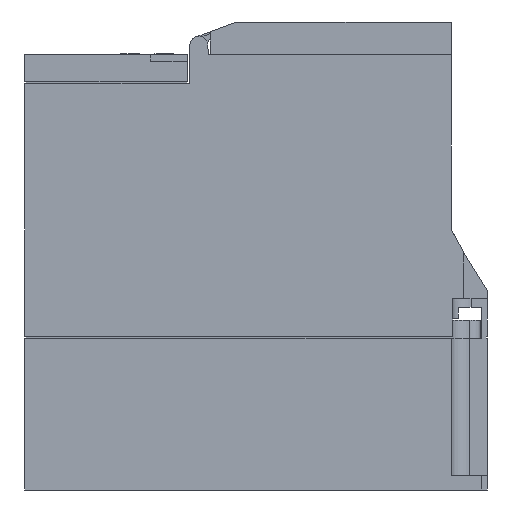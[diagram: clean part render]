
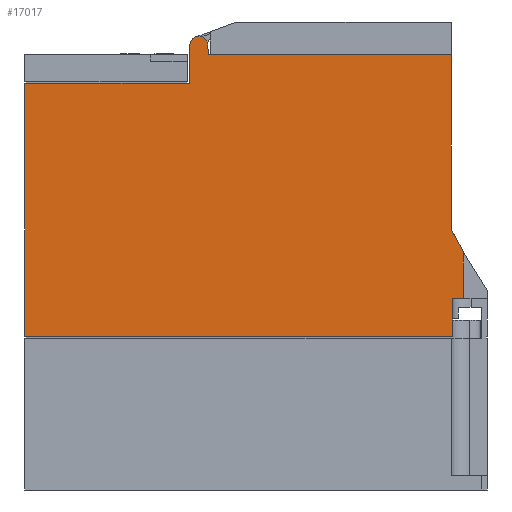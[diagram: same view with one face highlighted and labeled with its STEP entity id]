
A CAD part, left-side view. The second image highlights one B-rep face of the part: STEP entity #17017.
In plain terms, the highlighted planar face has unit normal (-1, 0, 0).
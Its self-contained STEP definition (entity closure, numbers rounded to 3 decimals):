
#2213=DIRECTION('',(0.,-1.,0.));
#2214=VECTOR('',#2213,118.5);
#2215=CARTESIAN_POINT('',(-34.,128.,0.5));
#2216=LINE('',#2215,#2214);
#3682=DIRECTION('',(0.,0.,1.));
#3683=VECTOR('',#3682,70.);
#3684=CARTESIAN_POINT('',(-34.,128.,0.5));
#3685=LINE('',#3684,#3683);
#3686=DIRECTION('',(0.,-0.017,1.));
#3687=VECTOR('',#3686,10.545);
#3688=CARTESIAN_POINT('',(-34.,82.484,70.5));
#3689=LINE('',#3688,#3687);
#3690=CARTESIAN_POINT('',(-34.,79.8,81.));
#3691=DIRECTION('',(1.,0.,0.));
#3692=DIRECTION('',(0.,1.,0.017));
#3693=AXIS2_PLACEMENT_3D('',#3690,#3691,#3692);
#3695=DIRECTION('',(0.,-0.017,-1.));
#3696=VECTOR('',#3695,2.544);
#3697=CARTESIAN_POINT('',(-34.,77.3,81.044));
#3698=LINE('',#3697,#3696);
#3699=DIRECTION('',(0.,0.,-1.));
#3700=VECTOR('',#3699,48.4);
#3701=CARTESIAN_POINT('',(-34.,10.,78.5));
#3702=LINE('',#3701,#3700);
#3703=DIRECTION('',(0.,-0.48,-0.877));
#3704=VECTOR('',#3703,7.078);
#3705=CARTESIAN_POINT('',(-34.,10.,30.1));
#3706=LINE('',#3705,#3704);
#3707=DIRECTION('',(0.,0.,1.));
#3708=VECTOR('',#3707,10.5);
#3709=CARTESIAN_POINT('',(-34.,9.5,0.5));
#3710=LINE('',#3709,#3708);
#3743=DIRECTION('',(0.,-1.,0.));
#3744=VECTOR('',#3743,45.516);
#3745=CARTESIAN_POINT('',(-34.,128.,70.5));
#3746=LINE('',#3745,#3744);
#7063=DIRECTION('',(0.,-1.,0.));
#7064=VECTOR('',#7063,67.256);
#7065=CARTESIAN_POINT('',(-34.,77.256,78.5));
#7066=LINE('',#7065,#7064);
#7199=DIRECTION('',(0.,0.,-1.));
#7200=VECTOR('',#7199,12.892);
#7201=CARTESIAN_POINT('',(-34.,6.6,23.892));
#7202=LINE('',#7201,#7200);
#7239=DIRECTION('',(0.,-1.,0.));
#7240=VECTOR('',#7239,2.9);
#7241=CARTESIAN_POINT('',(-34.,9.5,11.));
#7242=LINE('',#7241,#7240);
#8424=CARTESIAN_POINT('',(-34.,128.,70.5));
#8425=VERTEX_POINT('',#8424);
#8428=CARTESIAN_POINT('',(-34.,10.,78.5));
#8430=VERTEX_POINT('',#8428);
#8436=CARTESIAN_POINT('',(-34.,82.3,81.044));
#8437=CARTESIAN_POINT('',(-34.,77.3,81.044));
#8438=VERTEX_POINT('',#8436);
#8439=VERTEX_POINT('',#8437);
#8444=CARTESIAN_POINT('',(-34.,77.256,78.5));
#8445=VERTEX_POINT('',#8444);
#8653=CARTESIAN_POINT('',(-34.,128.,0.5));
#8655=VERTEX_POINT('',#8653);
#8724=CARTESIAN_POINT('',(-34.,82.484,70.5));
#8725=VERTEX_POINT('',#8724);
#8858=CARTESIAN_POINT('',(-34.,6.6,11.));
#8860=VERTEX_POINT('',#8858);
#8866=CARTESIAN_POINT('',(-34.,9.5,11.));
#8867=VERTEX_POINT('',#8866);
#8870=CARTESIAN_POINT('',(-34.,10.,30.1));
#8871=CARTESIAN_POINT('',(-34.,6.6,23.892));
#8872=VERTEX_POINT('',#8870);
#8873=VERTEX_POINT('',#8871);
#8922=CARTESIAN_POINT('',(-34.,9.5,0.5));
#8923=VERTEX_POINT('',#8922);
#16989=CARTESIAN_POINT('',(-34.,128.,0.));
#16990=DIRECTION('',(-1.,0.,0.));
#16991=DIRECTION('',(0.,-1.,0.));
#16992=AXIS2_PLACEMENT_3D('',#16989,#16990,#16991);
#16993=PLANE('',#16992);
#16994=ORIENTED_EDGE('',*,*,#14649,.F.);
#16996=ORIENTED_EDGE('',*,*,#16995,.T.);
#16998=ORIENTED_EDGE('',*,*,#16997,.T.);
#17000=ORIENTED_EDGE('',*,*,#16999,.T.);
#17002=ORIENTED_EDGE('',*,*,#17001,.T.);
#17004=ORIENTED_EDGE('',*,*,#17003,.T.);
#17006=ORIENTED_EDGE('',*,*,#17005,.T.);
#17008=ORIENTED_EDGE('',*,*,#17007,.T.);
#17009=ORIENTED_EDGE('',*,*,#14765,.T.);
#17011=ORIENTED_EDGE('',*,*,#17010,.T.);
#17013=ORIENTED_EDGE('',*,*,#17012,.F.);
#17014=ORIENTED_EDGE('',*,*,#16969,.F.);
#17015=EDGE_LOOP('',(#16994,#16996,#16998,#17000,#17002,#17004,#17006,#17008,
#17009,#17011,#17013,#17014));
#17016=FACE_OUTER_BOUND('',#17015,.F.);
#17017=ADVANCED_FACE('',(#17016),#16993,.T.);
#3694=CIRCLE('',#3693,2.5);
#14649=EDGE_CURVE('',#8655,#8923,#2216,.T.);
#14765=EDGE_CURVE('',#8872,#8873,#3706,.T.);
#16969=EDGE_CURVE('',#8923,#8867,#3710,.T.);
#16995=EDGE_CURVE('',#8655,#8425,#3685,.T.);
#16997=EDGE_CURVE('',#8425,#8725,#3746,.T.);
#16999=EDGE_CURVE('',#8725,#8438,#3689,.T.);
#17001=EDGE_CURVE('',#8438,#8439,#3694,.T.);
#17003=EDGE_CURVE('',#8439,#8445,#3698,.T.);
#17005=EDGE_CURVE('',#8445,#8430,#7066,.T.);
#17007=EDGE_CURVE('',#8430,#8872,#3702,.T.);
#17010=EDGE_CURVE('',#8873,#8860,#7202,.T.);
#17012=EDGE_CURVE('',#8867,#8860,#7242,.T.);
